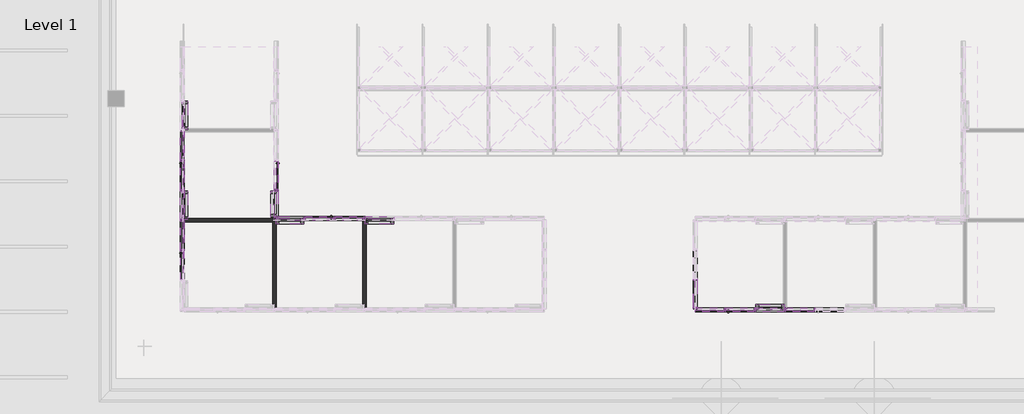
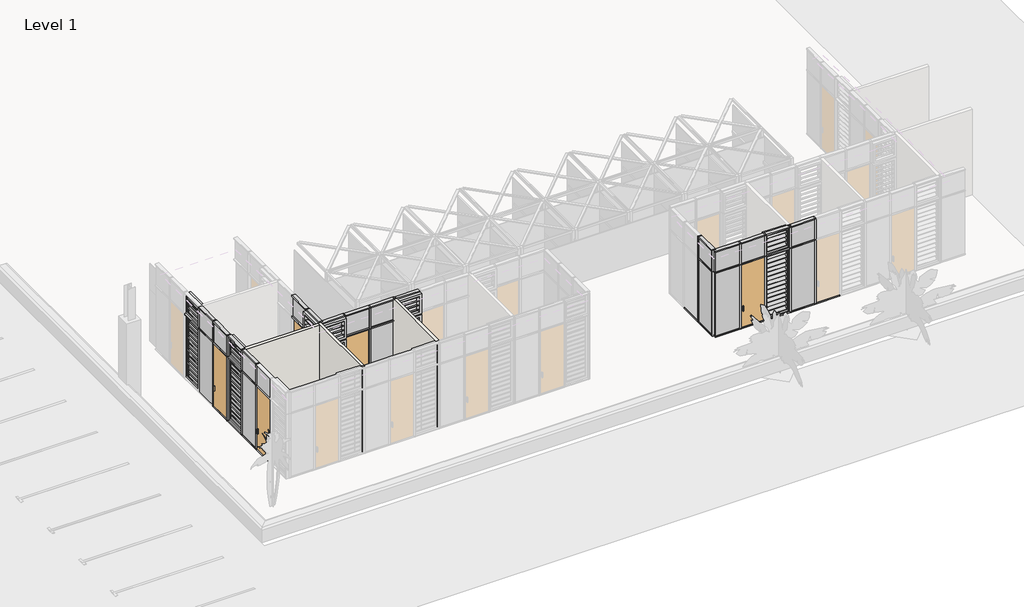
# One storey, part 2 of 32: 76 members, 37 plates, 5 doors, 3 walls.
"""IFC4 building model written with IfcOpenShell, lengths in millimetres."""

from ifc_helpers import new_model, si_unit, frame, origin, place, context, project, spatial, polyline, outline, extrude, faceted_brep, transform, mapped, element, save
from components import curtain_wall_door_single_glass_nz_curtain_wall_door_single_2bf20aac, curtain_wall_door_single_glass_nz_curtain_wall_door_single_ff8afd41, rectangular_mullion_50x150mm_c4504768, rectangular_mullion_50x150mm_6c7cb899, rectangular_mullion_50x150mm_bbc1c4ea, rectangular_mullion_50x150mm_1a36453b, rectangular_mullion_50x150mm_eeb88b28, rectangular_mullion_50x150mm_68c91185, rectangular_mullion_50x150mm_0d540e17, rectangular_mullion_50x150mm_ef3a484d, rectangular_mullion_50x150mm_108cdc6f, rectangular_mullion_50x150mm_593aaa1e, rectangular_mullion_50x150mm_375c3673, rectangular_mullion_50x150mm_9239b3be, rectangular_mullion_50x150mm_a540b215, rectangular_mullion_50x150mm_7be19fc6, rectangular_mullion_50x150mm_2e7aba4c, rectangular_mullion_50x150mm_cbc47d61, rectangular_mullion_50x150mm_107d38b9, curtain_wall_panel_louver_20805_curtain_wall_panel_louver_14332c5b, curtain_wall_panel_louver_20805_curtain_wall_panel_louver_d3fb298f, curtain_wall_panel_louver_20805_curtain_wall_panel_louver_d90cc1d3, curtain_wall_panel_glass_louver_20805_curtain_wall_panel_0f8e40a1, curtain_wall_panel_glass_louver_20805_curtain_wall_panel_1d079b44, curtain_wall_panel_glass_louver_20805_curtain_wall_panel_53968385, system_panel_glazed_c6855d5e, system_panel_glazed_a80c9663, system_panel_glazed_a434d42b, system_panel_glazed_53fe5bbb, system_panel_glazed_714bd533, system_panel_glazed_c406ecc0, system_panel_solid_585523e5, system_panel_solid_746005ab, system_panel_solid_10c0fb46

model = new_model("IFC4")

# Units and contexts
model_context = context("Model", 3, world=origin())
ifc_project = project(units=[si_unit("LENGTHUNIT", "METRE", prefix="MILLI")], contexts=[model_context])

# Site, building, storey
site = spatial("IfcSite", under=ifc_project)
building = spatial("IfcBuilding", under=site)
storey = spatial("IfcBuildingStorey", under=building, Name="Level 1", Elevation=2800.0)

# Doors
placement = place(None, origin())
curtain_wall_door_single_glass_nz_curtain_wall_door_single_shape = curtain_wall_door_single_glass_nz_curtain_wall_door_single_2bf20aac(model_context)
element("IfcDoor", 1, ObjectType="Curtain Wall Door-Single-Glass (NZ) : Curtain Wall Door-Single-Glass (NZ)", at=placement, inside=storey, context=model_context, shape_type="MappedRepresentation", body=[
    mapped(curtain_wall_door_single_glass_nz_curtain_wall_door_single_shape, transform((-83784.8408447, -28355.9199596, 2850.0), x_axis=(0.0, -1.0, 0.0), y_axis=(1.0, 0.0, 0.0), z_axis=(0.0, 0.0, 1.0))),
])
curtain_wall_door_single_glass_nz_curtain_wall_door_single_2_shape = curtain_wall_door_single_glass_nz_curtain_wall_door_single_ff8afd41(model_context)
element("IfcDoor", 2, ObjectType="Curtain Wall Door-Single-Glass (NZ) : Curtain Wall Door-Single-Glass (NZ)", at=placement, inside=storey, context=model_context, shape_type="MappedRepresentation", body=[
    mapped(curtain_wall_door_single_glass_nz_curtain_wall_door_single_2_shape, transform((-66780.3056756, -33305.9199596, 2850.0), x_axis=(1.0, 0.0, 0.0), y_axis=(0.0, 1.0, 0.0), z_axis=(0.0, 0.0, 1.0))),
])
element("IfcDoor", 3, ObjectType="Curtain Wall Door-Single-Glass (NZ) : Curtain Wall Door-Single-Glass (NZ)", at=placement, inside=storey, context=model_context, shape_type="MappedRepresentation", body=[
    mapped(curtain_wall_door_single_glass_nz_curtain_wall_door_single_2_shape, transform((-82209.8408448, -29943.4199596, 2850.0), x_axis=(-1.0, 0.0, 0.0), y_axis=(0.0, -1.0, 0.0), z_axis=(0.0, 0.0, 1.0))),
])
element("IfcDoor", 4, ObjectType="Curtain Wall Door-Single-Glass (NZ) : Curtain Wall Door-Single-Glass (NZ)", at=placement, inside=storey, context=model_context, shape_type="MappedRepresentation", body=[
    mapped(curtain_wall_door_single_glass_nz_curtain_wall_door_single_2_shape, transform((-87234.8408447, -28355.9199596, 2850.0), x_axis=(0.0, -1.0, 0.0), y_axis=(1.0, 0.0, 0.0), z_axis=(0.0, 0.0, 1.0))),
])
element("IfcDoor", 5, ObjectType="Curtain Wall Door-Single-Glass (NZ) : Curtain Wall Door-Single-Glass (NZ)", at=placement, inside=storey, context=model_context, shape_type="MappedRepresentation", body=[
    mapped(curtain_wall_door_single_glass_nz_curtain_wall_door_single_2_shape, transform((-87234.8408447, -31655.9199597, 2850.0), x_axis=(0.0, -1.0, 0.0), y_axis=(1.0, 0.0, 0.0), z_axis=(0.0, 0.0, 1.0))),
])

# Members
rectangular_mullion_50x150mm_shape = rectangular_mullion_50x150mm_c4504768(model_context)
element("IfcMember", 6, ObjectType="Rectangular Mullion : 50x150mm", at=placement, inside=storey, context=model_context, shape_type="MappedRepresentation", body=[
    mapped(rectangular_mullion_50x150mm_shape, transform((-83784.8408447, -28880.9199596, 5800.0), x_axis=(0.0, 0.0, 1.0), y_axis=(-1.0, 0.0, 0.0), z_axis=(0.0, -1.0, 0.0))),
])
rectangular_mullion_50x150mm_2_shape = rectangular_mullion_50x150mm_6c7cb899(model_context)
element("IfcMember", 7, ObjectType="Rectangular Mullion : 50x150mm", at=placement, inside=storey, context=model_context, shape_type="MappedRepresentation", body=[
    mapped(rectangular_mullion_50x150mm_2_shape, transform((-83784.8408447, -28905.9199596, 2800.0), x_axis=(0.0, -1.0, 0.0), y_axis=(-1.0, 0.0, 0.0), z_axis=(0.0, 0.0, -1.0))),
])
element("IfcMember", 8, ObjectType="Rectangular Mullion : 50x150mm", at=placement, inside=storey, context=model_context, shape_type="MappedRepresentation", body=[
    mapped(rectangular_mullion_50x150mm_2_shape, transform((-68427.8056755, -32179.2532929, 2800.0), x_axis=(0.0, 1.0, 0.0), y_axis=(1.0, 0.0, 0.0), z_axis=(0.0, 0.0, -1.0))),
])
rectangular_mullion_50x150mm_3_shape = rectangular_mullion_50x150mm_bbc1c4ea(model_context)
element("IfcMember", 9, ObjectType="Rectangular Mullion : 50x150mm", at=placement, inside=storey, context=model_context, shape_type="MappedRepresentation", body=[
    mapped(rectangular_mullion_50x150mm_3_shape, transform((-83784.8408447, -28905.9199596, 5800.0), x_axis=(0.0, -1.0, 0.0), y_axis=(-1.0, 0.0, 0.0), z_axis=(0.0, 0.0, -1.0))),
])
element("IfcMember", 10, ObjectType="Rectangular Mullion : 50x150mm", at=placement, inside=storey, context=model_context, shape_type="MappedRepresentation", body=[
    mapped(rectangular_mullion_50x150mm_3_shape, transform((-68427.8056755, -32179.2532929, 5800.0), x_axis=(0.0, 1.0, 0.0), y_axis=(1.0, 0.0, 0.0), z_axis=(0.0, 0.0, -1.0))),
])
rectangular_mullion_50x150mm_4_shape = rectangular_mullion_50x150mm_1a36453b(model_context)
element("IfcMember", 11, ObjectType="Rectangular Mullion : 50x150mm", at=placement, inside=storey, context=model_context, shape_type="MappedRepresentation", body=[
    mapped(rectangular_mullion_50x150mm_4_shape, transform((-83784.8408447, -28880.9199596, 6800.0), x_axis=(0.0, 0.0, 1.0), y_axis=(-1.0, 0.0, 0.0), z_axis=(0.0, -1.0, 0.0))),
])
rectangular_mullion_50x150mm_5_shape = rectangular_mullion_50x150mm_eeb88b28(model_context)
element("IfcMember", 12, ObjectType="Rectangular Mullion : 50x150mm", at=placement, inside=storey, context=model_context, shape_type="MappedRepresentation", body=[
    mapped(rectangular_mullion_50x150mm_5_shape, transform((-68427.8056755, -33265.9199596, 6800.0), x_axis=(0.0, -1.0, 0.0), y_axis=(1.0, 0.0, 0.0), z_axis=(0.0, 0.0, 1.0))),
])
rectangular_mullion_50x150mm_6_shape = rectangular_mullion_50x150mm_68c91185(model_context)
element("IfcMember", 13, ObjectType="Rectangular Mullion : 50x150mm", at=placement, inside=storey, context=model_context, shape_type="MappedRepresentation", body=[
    mapped(rectangular_mullion_50x150mm_6_shape, transform((-83784.8408447, -29943.4199596, 2800.0), x_axis=(0.0, -1.0, 0.0), y_axis=(-1.0, 0.0, 0.0), z_axis=(0.0, 0.0, -1.0))),
])
element("IfcMember", 14, ObjectType="Rectangular Mullion : 50x150mm", at=placement, inside=storey, context=model_context, shape_type="MappedRepresentation", body=[
    mapped(rectangular_mullion_50x150mm_5_shape, transform((-83784.8408447, -29943.4199596, 5800.0), x_axis=(0.0, -1.0, 0.0), y_axis=(-1.0, 0.0, 0.0), z_axis=(0.0, 0.0, -1.0))),
])
element("IfcMember", 15, ObjectType="Rectangular Mullion : 50x150mm", at=placement, inside=storey, context=model_context, shape_type="MappedRepresentation", body=[
    mapped(rectangular_mullion_50x150mm_6_shape, transform((-68427.8056755, -33265.9199596, 5800.0), x_axis=(0.0, -1.0, 0.0), y_axis=(1.0, 0.0, 0.0), z_axis=(0.0, 0.0, 1.0))),
])
element("IfcMember", 16, ObjectType="Rectangular Mullion : 50x150mm", at=placement, inside=storey, context=model_context, shape_type="MappedRepresentation", body=[
    mapped(rectangular_mullion_50x150mm_3_shape, transform((-64030.3056756, -33305.9199596, 5800.0), x_axis=(1.0, 0.0, 0.0), y_axis=(0.0, -1.0, 0.0), z_axis=(0.0, 0.0, -1.0))),
])
element("IfcMember", 17, ObjectType="Rectangular Mullion : 50x150mm", at=placement, inside=storey, context=model_context, shape_type="MappedRepresentation", body=[
    mapped(rectangular_mullion_50x150mm_3_shape, transform((-65130.3056756, -33305.9199596, 5800.0), x_axis=(1.0, 0.0, 0.0), y_axis=(0.0, -1.0, 0.0), z_axis=(0.0, 0.0, -1.0))),
])
element("IfcMember", 18, ObjectType="Rectangular Mullion : 50x150mm", at=placement, inside=storey, context=model_context, shape_type="MappedRepresentation", body=[
    mapped(rectangular_mullion_50x150mm_3_shape, transform((-66230.3056756, -33305.9199596, 5800.0), x_axis=(1.0, 0.0, 0.0), y_axis=(0.0, -1.0, 0.0), z_axis=(0.0, 0.0, -1.0))),
])
element("IfcMember", 19, ObjectType="Rectangular Mullion : 50x150mm", at=placement, inside=storey, context=model_context, shape_type="MappedRepresentation", body=[
    mapped(rectangular_mullion_50x150mm_3_shape, transform((-67330.3056756, -33305.9199596, 5800.0), x_axis=(1.0, 0.0, 0.0), y_axis=(0.0, -1.0, 0.0), z_axis=(0.0, 0.0, -1.0))),
])
element("IfcMember", 20, ObjectType="Rectangular Mullion : 50x150mm", at=placement, inside=storey, context=model_context, shape_type="MappedRepresentation", body=[
    mapped(rectangular_mullion_50x150mm_3_shape, transform((-81659.8408448, -29943.4199596, 5800.0), x_axis=(-1.0, 0.0, 0.0), y_axis=(0.0, 1.0, 0.0), z_axis=(0.0, 0.0, -1.0))),
])
element("IfcMember", 21, ObjectType="Rectangular Mullion : 50x150mm", at=placement, inside=storey, context=model_context, shape_type="MappedRepresentation", body=[
    mapped(rectangular_mullion_50x150mm_3_shape, transform((-82759.8408447, -29943.4199596, 5800.0), x_axis=(-1.0, 0.0, 0.0), y_axis=(0.0, 1.0, 0.0), z_axis=(0.0, 0.0, -1.0))),
])
element("IfcMember", 22, ObjectType="Rectangular Mullion : 50x150mm", at=placement, inside=storey, context=model_context, shape_type="MappedRepresentation", body=[
    mapped(rectangular_mullion_50x150mm_3_shape, transform((-80559.8408447, -29943.4199596, 5800.0), x_axis=(-1.0, 0.0, 0.0), y_axis=(0.0, 1.0, 0.0), z_axis=(0.0, 0.0, -1.0))),
])
element("IfcMember", 23, ObjectType="Rectangular Mullion : 50x150mm", at=placement, inside=storey, context=model_context, shape_type="MappedRepresentation", body=[
    mapped(rectangular_mullion_50x150mm_3_shape, transform((-87234.8408447, -27805.9199596, 5800.0), x_axis=(0.0, -1.0, 0.0), y_axis=(-1.0, 0.0, 0.0), z_axis=(0.0, 0.0, -1.0))),
])
element("IfcMember", 24, ObjectType="Rectangular Mullion : 50x150mm", at=placement, inside=storey, context=model_context, shape_type="MappedRepresentation", body=[
    mapped(rectangular_mullion_50x150mm_3_shape, transform((-87234.8408447, -28905.9199596, 5800.0), x_axis=(0.0, -1.0, 0.0), y_axis=(-1.0, 0.0, 0.0), z_axis=(0.0, 0.0, -1.0))),
])
element("IfcMember", 25, ObjectType="Rectangular Mullion : 50x150mm", at=placement, inside=storey, context=model_context, shape_type="MappedRepresentation", body=[
    mapped(rectangular_mullion_50x150mm_2_shape, transform((-64030.3056756, -33305.9199596, 2800.0), x_axis=(1.0, 0.0, 0.0), y_axis=(0.0, -1.0, 0.0), z_axis=(0.0, 0.0, -1.0))),
])
element("IfcMember", 26, ObjectType="Rectangular Mullion : 50x150mm", at=placement, inside=storey, context=model_context, shape_type="MappedRepresentation", body=[
    mapped(rectangular_mullion_50x150mm_2_shape, transform((-65130.3056756, -33305.9199596, 2800.0), x_axis=(1.0, 0.0, 0.0), y_axis=(0.0, -1.0, 0.0), z_axis=(0.0, 0.0, -1.0))),
])
element("IfcMember", 27, ObjectType="Rectangular Mullion : 50x150mm", at=placement, inside=storey, context=model_context, shape_type="MappedRepresentation", body=[
    mapped(rectangular_mullion_50x150mm_2_shape, transform((-66230.3056756, -33305.9199596, 2800.0), x_axis=(1.0, 0.0, 0.0), y_axis=(0.0, -1.0, 0.0), z_axis=(0.0, 0.0, -1.0))),
])
element("IfcMember", 28, ObjectType="Rectangular Mullion : 50x150mm", at=placement, inside=storey, context=model_context, shape_type="MappedRepresentation", body=[
    mapped(rectangular_mullion_50x150mm_2_shape, transform((-67330.3056756, -33305.9199596, 2800.0), x_axis=(1.0, 0.0, 0.0), y_axis=(0.0, -1.0, 0.0), z_axis=(0.0, 0.0, -1.0))),
])
element("IfcMember", 29, ObjectType="Rectangular Mullion : 50x150mm", at=placement, inside=storey, context=model_context, shape_type="MappedRepresentation", body=[
    mapped(rectangular_mullion_50x150mm_2_shape, transform((-81659.8408448, -29943.4199596, 2800.0), x_axis=(-1.0, 0.0, 0.0), y_axis=(0.0, 1.0, 0.0), z_axis=(0.0, 0.0, -1.0))),
])
element("IfcMember", 30, ObjectType="Rectangular Mullion : 50x150mm", at=placement, inside=storey, context=model_context, shape_type="MappedRepresentation", body=[
    mapped(rectangular_mullion_50x150mm_2_shape, transform((-82759.8408447, -29943.4199596, 2800.0), x_axis=(-1.0, 0.0, 0.0), y_axis=(0.0, 1.0, 0.0), z_axis=(0.0, 0.0, -1.0))),
])
element("IfcMember", 31, ObjectType="Rectangular Mullion : 50x150mm", at=placement, inside=storey, context=model_context, shape_type="MappedRepresentation", body=[
    mapped(rectangular_mullion_50x150mm_2_shape, transform((-80559.8408447, -29943.4199596, 2800.0), x_axis=(-1.0, 0.0, 0.0), y_axis=(0.0, 1.0, 0.0), z_axis=(0.0, 0.0, -1.0))),
])
element("IfcMember", 32, ObjectType="Rectangular Mullion : 50x150mm", at=placement, inside=storey, context=model_context, shape_type="MappedRepresentation", body=[
    mapped(rectangular_mullion_50x150mm_2_shape, transform((-87234.8408447, -27805.9199596, 2800.0), x_axis=(0.0, -1.0, 0.0), y_axis=(-1.0, 0.0, 0.0), z_axis=(0.0, 0.0, -1.0))),
])
element("IfcMember", 33, ObjectType="Rectangular Mullion : 50x150mm", at=placement, inside=storey, context=model_context, shape_type="MappedRepresentation", body=[
    mapped(rectangular_mullion_50x150mm_2_shape, transform((-87234.8408447, -28905.9199596, 2800.0), x_axis=(0.0, -1.0, 0.0), y_axis=(-1.0, 0.0, 0.0), z_axis=(0.0, 0.0, -1.0))),
])
rectangular_mullion_50x150mm_7_shape = rectangular_mullion_50x150mm_0d540e17(model_context)
element("IfcMember", 34, ObjectType="Rectangular Mullion : 50x150mm", at=placement, inside=storey, context=model_context, shape_type="MappedRepresentation", body=[
    mapped(rectangular_mullion_50x150mm_7_shape, transform((-65155.3056756, -33305.9199596, 5800.0), x_axis=(0.0, 0.0, 1.0), y_axis=(0.0, -1.0, 0.0), z_axis=(1.0, 0.0, 0.0))),
])
element("IfcMember", 35, ObjectType="Rectangular Mullion : 50x150mm", at=placement, inside=storey, context=model_context, shape_type="MappedRepresentation", body=[
    mapped(rectangular_mullion_50x150mm_7_shape, transform((-66255.3056756, -33305.9199596, 5800.0), x_axis=(0.0, 0.0, 1.0), y_axis=(0.0, -1.0, 0.0), z_axis=(1.0, 0.0, 0.0))),
])
element("IfcMember", 36, ObjectType="Rectangular Mullion : 50x150mm", at=placement, inside=storey, context=model_context, shape_type="MappedRepresentation", body=[
    mapped(rectangular_mullion_50x150mm_7_shape, transform((-64055.3056756, -33305.9199596, 5800.0), x_axis=(0.0, 0.0, 1.0), y_axis=(0.0, -1.0, 0.0), z_axis=(1.0, 0.0, 0.0))),
])
element("IfcMember", 37, ObjectType="Rectangular Mullion : 50x150mm", at=placement, inside=storey, context=model_context, shape_type="MappedRepresentation", body=[
    mapped(rectangular_mullion_50x150mm_7_shape, transform((-81634.8408448, -29943.4199596, 5800.0), x_axis=(0.0, 0.0, 1.0), y_axis=(0.0, 1.0, 0.0), z_axis=(-1.0, 0.0, 0.0))),
])
element("IfcMember", 38, ObjectType="Rectangular Mullion : 50x150mm", at=placement, inside=storey, context=model_context, shape_type="MappedRepresentation", body=[
    mapped(rectangular_mullion_50x150mm_7_shape, transform((-82734.8408447, -29943.4199596, 5800.0), x_axis=(0.0, 0.0, 1.0), y_axis=(0.0, 1.0, 0.0), z_axis=(-1.0, 0.0, 0.0))),
])
element("IfcMember", 39, ObjectType="Rectangular Mullion : 50x150mm", at=placement, inside=storey, context=model_context, shape_type="MappedRepresentation", body=[
    mapped(rectangular_mullion_50x150mm_7_shape, transform((-80534.8408447, -29943.4199596, 5800.0), x_axis=(0.0, 0.0, 1.0), y_axis=(0.0, 1.0, 0.0), z_axis=(-1.0, 0.0, 0.0))),
])
element("IfcMember", 40, ObjectType="Rectangular Mullion : 50x150mm", at=placement, inside=storey, context=model_context, shape_type="MappedRepresentation", body=[
    mapped(rectangular_mullion_50x150mm_7_shape, transform((-87234.8408447, -29980.9199596, 5800.0), x_axis=(0.0, 0.0, 1.0), y_axis=(-1.0, 0.0, 0.0), z_axis=(0.0, -1.0, 0.0))),
])
element("IfcMember", 41, ObjectType="Rectangular Mullion : 50x150mm", at=placement, inside=storey, context=model_context, shape_type="MappedRepresentation", body=[
    mapped(rectangular_mullion_50x150mm_7_shape, transform((-87234.8408447, -27780.9199596, 5800.0), x_axis=(0.0, 0.0, 1.0), y_axis=(-1.0, 0.0, 0.0), z_axis=(0.0, -1.0, 0.0))),
])
element("IfcMember", 42, ObjectType="Rectangular Mullion : 50x150mm", at=placement, inside=storey, context=model_context, shape_type="MappedRepresentation", body=[
    mapped(rectangular_mullion_50x150mm_7_shape, transform((-87234.8408447, -26680.9199596, 5800.0), x_axis=(0.0, 0.0, 1.0), y_axis=(-1.0, 0.0, 0.0), z_axis=(0.0, -1.0, 0.0))),
])
element("IfcMember", 43, ObjectType="Rectangular Mullion : 50x150mm", at=placement, inside=storey, context=model_context, shape_type="MappedRepresentation", body=[
    mapped(rectangular_mullion_50x150mm_7_shape, transform((-87234.8408447, -28880.9199596, 5800.0), x_axis=(0.0, 0.0, 1.0), y_axis=(-1.0, 0.0, 0.0), z_axis=(0.0, -1.0, 0.0))),
])
rectangular_mullion_50x150mm_8_shape = rectangular_mullion_50x150mm_ef3a484d(model_context)
element("IfcMember", 44, ObjectType="Rectangular Mullion : 50x150mm", at=placement, inside=storey, context=model_context, shape_type="MappedRepresentation", body=[
    mapped(rectangular_mullion_50x150mm_8_shape, transform((-67355.3056756, -33305.9199596, 5800.0), x_axis=(0.0, 0.0, 1.0), y_axis=(0.0, -1.0, 0.0), z_axis=(1.0, 0.0, 0.0))),
])
rectangular_mullion_50x150mm_9_shape = rectangular_mullion_50x150mm_108cdc6f(model_context)
element("IfcMember", 45, ObjectType="Rectangular Mullion : 50x150mm", at=placement, inside=storey, context=model_context, shape_type="MappedRepresentation", body=[
    mapped(rectangular_mullion_50x150mm_9_shape, transform((-64005.3056756, -33305.9199596, 2800.0), x_axis=(0.0, 0.0, -1.0), y_axis=(0.0, -1.0, 0.0), z_axis=(-1.0, 0.0, 0.0))),
])
element("IfcMember", 46, ObjectType="Rectangular Mullion : 50x150mm", at=placement, inside=storey, context=model_context, shape_type="MappedRepresentation", body=[
    mapped(rectangular_mullion_50x150mm_9_shape, transform((-66205.3056756, -33305.9199596, 2800.0), x_axis=(0.0, 0.0, -1.0), y_axis=(0.0, -1.0, 0.0), z_axis=(-1.0, 0.0, 0.0))),
])
element("IfcMember", 47, ObjectType="Rectangular Mullion : 50x150mm", at=placement, inside=storey, context=model_context, shape_type="MappedRepresentation", body=[
    mapped(rectangular_mullion_50x150mm_9_shape, transform((-67305.3056756, -33305.9199596, 2800.0), x_axis=(0.0, 0.0, -1.0), y_axis=(0.0, -1.0, 0.0), z_axis=(-1.0, 0.0, 0.0))),
])
element("IfcMember", 48, ObjectType="Rectangular Mullion : 50x150mm", at=placement, inside=storey, context=model_context, shape_type="MappedRepresentation", body=[
    mapped(rectangular_mullion_50x150mm_9_shape, transform((-65105.3056756, -33305.9199596, 2800.0), x_axis=(0.0, 0.0, -1.0), y_axis=(0.0, -1.0, 0.0), z_axis=(-1.0, 0.0, 0.0))),
])
element("IfcMember", 49, ObjectType="Rectangular Mullion : 50x150mm", at=placement, inside=storey, context=model_context, shape_type="MappedRepresentation", body=[
    mapped(rectangular_mullion_50x150mm_9_shape, transform((-80584.8408447, -29943.4199596, 2800.0), x_axis=(0.0, 0.0, -1.0), y_axis=(0.0, 1.0, 0.0), z_axis=(1.0, 0.0, 0.0))),
])
element("IfcMember", 50, ObjectType="Rectangular Mullion : 50x150mm", at=placement, inside=storey, context=model_context, shape_type="MappedRepresentation", body=[
    mapped(rectangular_mullion_50x150mm_9_shape, transform((-81684.8408448, -29943.4199596, 2800.0), x_axis=(0.0, 0.0, -1.0), y_axis=(0.0, 1.0, 0.0), z_axis=(1.0, 0.0, 0.0))),
])
element("IfcMember", 51, ObjectType="Rectangular Mullion : 50x150mm", at=placement, inside=storey, context=model_context, shape_type="MappedRepresentation", body=[
    mapped(rectangular_mullion_50x150mm_9_shape, transform((-87234.8408447, -28930.9199596, 2800.0), x_axis=(0.0, 0.0, -1.0), y_axis=(-1.0, 0.0, 0.0), z_axis=(0.0, 1.0, 0.0))),
])
element("IfcMember", 52, ObjectType="Rectangular Mullion : 50x150mm", at=placement, inside=storey, context=model_context, shape_type="MappedRepresentation", body=[
    mapped(rectangular_mullion_50x150mm_9_shape, transform((-87234.8408447, -27830.9199596, 2800.0), x_axis=(0.0, 0.0, -1.0), y_axis=(-1.0, 0.0, 0.0), z_axis=(0.0, 1.0, 0.0))),
])
rectangular_mullion_50x150mm_10_shape = rectangular_mullion_50x150mm_593aaa1e(model_context)
element("IfcMember", 53, ObjectType="Rectangular Mullion : 50x150mm", at=placement, inside=storey, context=model_context, shape_type="MappedRepresentation", body=[
    mapped(rectangular_mullion_50x150mm_10_shape, transform((-68430.3056755, -33305.9199596, 2800.0), x_axis=(0.0, 0.0, -1.0), y_axis=(0.0, -1.0, 0.0), z_axis=(-1.0, 0.0, 0.0))),
])
element("IfcMember", 54, ObjectType="Rectangular Mullion : 50x150mm", at=placement, inside=storey, context=model_context, shape_type="MappedRepresentation", body=[
    mapped(rectangular_mullion_50x150mm_4_shape, transform((-64055.3056756, -33305.9199596, 6800.0), x_axis=(0.0, 0.0, 1.0), y_axis=(0.0, -1.0, 0.0), z_axis=(1.0, 0.0, 0.0))),
])
element("IfcMember", 55, ObjectType="Rectangular Mullion : 50x150mm", at=placement, inside=storey, context=model_context, shape_type="MappedRepresentation", body=[
    mapped(rectangular_mullion_50x150mm_4_shape, transform((-66255.3056756, -33305.9199596, 6800.0), x_axis=(0.0, 0.0, 1.0), y_axis=(0.0, -1.0, 0.0), z_axis=(1.0, 0.0, 0.0))),
])
element("IfcMember", 56, ObjectType="Rectangular Mullion : 50x150mm", at=placement, inside=storey, context=model_context, shape_type="MappedRepresentation", body=[
    mapped(rectangular_mullion_50x150mm_4_shape, transform((-65155.3056756, -33305.9199596, 6800.0), x_axis=(0.0, 0.0, 1.0), y_axis=(0.0, -1.0, 0.0), z_axis=(1.0, 0.0, 0.0))),
])
element("IfcMember", 57, ObjectType="Rectangular Mullion : 50x150mm", at=placement, inside=storey, context=model_context, shape_type="MappedRepresentation", body=[
    mapped(rectangular_mullion_50x150mm_4_shape, transform((-80534.8408447, -29943.4199596, 6800.0), x_axis=(0.0, 0.0, 1.0), y_axis=(0.0, 1.0, 0.0), z_axis=(-1.0, 0.0, 0.0))),
])
element("IfcMember", 58, ObjectType="Rectangular Mullion : 50x150mm", at=placement, inside=storey, context=model_context, shape_type="MappedRepresentation", body=[
    mapped(rectangular_mullion_50x150mm_4_shape, transform((-82734.8408447, -29943.4199596, 6800.0), x_axis=(0.0, 0.0, 1.0), y_axis=(0.0, 1.0, 0.0), z_axis=(-1.0, 0.0, 0.0))),
])
element("IfcMember", 59, ObjectType="Rectangular Mullion : 50x150mm", at=placement, inside=storey, context=model_context, shape_type="MappedRepresentation", body=[
    mapped(rectangular_mullion_50x150mm_4_shape, transform((-81634.8408448, -29943.4199596, 6800.0), x_axis=(0.0, 0.0, 1.0), y_axis=(0.0, 1.0, 0.0), z_axis=(-1.0, 0.0, 0.0))),
])
element("IfcMember", 60, ObjectType="Rectangular Mullion : 50x150mm", at=placement, inside=storey, context=model_context, shape_type="MappedRepresentation", body=[
    mapped(rectangular_mullion_50x150mm_4_shape, transform((-87234.8408447, -28880.9199596, 6800.0), x_axis=(0.0, 0.0, 1.0), y_axis=(-1.0, 0.0, 0.0), z_axis=(0.0, -1.0, 0.0))),
])
element("IfcMember", 61, ObjectType="Rectangular Mullion : 50x150mm", at=placement, inside=storey, context=model_context, shape_type="MappedRepresentation", body=[
    mapped(rectangular_mullion_50x150mm_4_shape, transform((-87234.8408447, -27780.9199596, 6800.0), x_axis=(0.0, 0.0, 1.0), y_axis=(-1.0, 0.0, 0.0), z_axis=(0.0, -1.0, 0.0))),
])
element("IfcMember", 62, ObjectType="Rectangular Mullion : 50x150mm", at=placement, inside=storey, context=model_context, shape_type="MappedRepresentation", body=[
    mapped(rectangular_mullion_50x150mm_10_shape, transform((-67355.3056756, -33305.9199596, 6800.0), x_axis=(0.0, 0.0, 1.0), y_axis=(0.0, -1.0, 0.0), z_axis=(1.0, 0.0, 0.0))),
])
rectangular_mullion_50x150mm_11_shape = rectangular_mullion_50x150mm_375c3673(model_context)
element("IfcMember", 63, ObjectType="Rectangular Mullion : 50x150mm", at=placement, inside=storey, context=model_context, shape_type="MappedRepresentation", body=[
    mapped(rectangular_mullion_50x150mm_11_shape, transform((-83797.3408447, -29943.4199596, 5800.0), x_axis=(0.0, 0.0, 1.0), y_axis=(0.0, 1.0, 0.0), z_axis=(-1.0, 0.0, 0.0))),
])
rectangular_mullion_50x150mm_12_shape = rectangular_mullion_50x150mm_9239b3be(model_context)
element("IfcMember", 64, ObjectType="Rectangular Mullion : 50x150mm", at=placement, inside=storey, context=model_context, shape_type="MappedRepresentation", body=[
    mapped(rectangular_mullion_50x150mm_12_shape, transform((-82784.8408447, -29943.4199596, 2800.0), x_axis=(0.0, 0.0, -1.0), y_axis=(0.0, 1.0, 0.0), z_axis=(1.0, 0.0, 0.0))),
])
element("IfcMember", 65, ObjectType="Rectangular Mullion : 50x150mm", at=placement, inside=storey, context=model_context, shape_type="MappedRepresentation", body=[
    mapped(rectangular_mullion_50x150mm_12_shape, transform((-83797.3408447, -29943.4199596, 6800.0), x_axis=(0.0, 0.0, 1.0), y_axis=(0.0, 1.0, 0.0), z_axis=(-1.0, 0.0, 0.0))),
])
element("IfcMember", 66, ObjectType="Rectangular Mullion : 50x150mm", at=placement, inside=storey, context=model_context, shape_type="MappedRepresentation", body=[
    mapped(rectangular_mullion_50x150mm_9_shape, transform((-87234.8408447, -30030.9199596, 2800.0), x_axis=(0.0, 0.0, -1.0), y_axis=(-1.0, 0.0, 0.0), z_axis=(0.0, 1.0, 0.0))),
])
element("IfcMember", 67, ObjectType="Rectangular Mullion : 50x150mm", at=placement, inside=storey, context=model_context, shape_type="MappedRepresentation", body=[
    mapped(rectangular_mullion_50x150mm_9_shape, transform((-87234.8408447, -31130.9199597, 2800.0), x_axis=(0.0, 0.0, -1.0), y_axis=(-1.0, 0.0, 0.0), z_axis=(0.0, 1.0, 0.0))),
])
element("IfcMember", 68, ObjectType="Rectangular Mullion : 50x150mm", at=placement, inside=storey, context=model_context, shape_type="MappedRepresentation", body=[
    mapped(rectangular_mullion_50x150mm_4_shape, transform((-87234.8408447, -29980.9199596, 6800.0), x_axis=(0.0, 0.0, 1.0), y_axis=(-1.0, 0.0, 0.0), z_axis=(0.0, -1.0, 0.0))),
])
element("IfcMember", 69, ObjectType="Rectangular Mullion : 50x150mm", at=placement, inside=storey, context=model_context, shape_type="MappedRepresentation", body=[
    mapped(rectangular_mullion_50x150mm_4_shape, transform((-87234.8408447, -31080.9199597, 6800.0), x_axis=(0.0, 0.0, 1.0), y_axis=(-1.0, 0.0, 0.0), z_axis=(0.0, -1.0, 0.0))),
])
element("IfcMember", 70, ObjectType="Rectangular Mullion : 50x150mm", at=placement, inside=storey, context=model_context, shape_type="MappedRepresentation", body=[
    mapped(rectangular_mullion_50x150mm_3_shape, transform((-87234.8408447, -30005.9199596, 5800.0), x_axis=(0.0, -1.0, 0.0), y_axis=(-1.0, 0.0, 0.0), z_axis=(0.0, 0.0, -1.0))),
])
element("IfcMember", 71, ObjectType="Rectangular Mullion : 50x150mm", at=placement, inside=storey, context=model_context, shape_type="MappedRepresentation", body=[
    mapped(rectangular_mullion_50x150mm_3_shape, transform((-87234.8408447, -31105.9199597, 5800.0), x_axis=(0.0, -1.0, 0.0), y_axis=(-1.0, 0.0, 0.0), z_axis=(0.0, 0.0, -1.0))),
])
element("IfcMember", 72, ObjectType="Rectangular Mullion : 50x150mm", at=placement, inside=storey, context=model_context, shape_type="MappedRepresentation", body=[
    mapped(rectangular_mullion_50x150mm_2_shape, transform((-87234.8408447, -30005.9199596, 2800.0), x_axis=(0.0, -1.0, 0.0), y_axis=(-1.0, 0.0, 0.0), z_axis=(0.0, 0.0, -1.0))),
])
element("IfcMember", 73, ObjectType="Rectangular Mullion : 50x150mm", at=placement, inside=storey, context=model_context, shape_type="MappedRepresentation", body=[
    mapped(rectangular_mullion_50x150mm_2_shape, transform((-87234.8408447, -31105.9199597, 2800.0), x_axis=(0.0, -1.0, 0.0), y_axis=(-1.0, 0.0, 0.0), z_axis=(0.0, 0.0, -1.0))),
])
element("IfcMember", 74, ObjectType="Rectangular Mullion : 50x150mm", at=placement, inside=storey, context=model_context, shape_type="MappedRepresentation", body=[
    mapped(rectangular_mullion_50x150mm_7_shape, transform((-87234.8408447, -31080.9199597, 5800.0), x_axis=(0.0, 0.0, 1.0), y_axis=(-1.0, 0.0, 0.0), z_axis=(0.0, -1.0, 0.0))),
])
rectangular_mullion_50x150mm_13_shape = rectangular_mullion_50x150mm_a540b215(model_context)
element("IfcMember", 75, ObjectType="Rectangular Mullion : 50x150mm", at=placement, inside=storey, context=model_context, shape_type="MappedRepresentation", body=[
    mapped(rectangular_mullion_50x150mm_13_shape, transform((-68427.8056755, -32154.2532929, 2800.0), x_axis=(0.0, 0.0, -1.0), y_axis=(1.0, 0.0, 0.0), z_axis=(0.0, -1.0, 0.0))),
])
rectangular_mullion_50x150mm_14_shape = rectangular_mullion_50x150mm_7be19fc6(model_context)
element("IfcMember", 76, ObjectType="Rectangular Mullion : 50x150mm", at=placement, inside=storey, context=model_context, shape_type="MappedRepresentation", body=[
    mapped(rectangular_mullion_50x150mm_14_shape, transform((-68427.8056755, -32204.2532929, 5800.0), x_axis=(0.0, 0.0, 1.0), y_axis=(1.0, 0.0, 0.0), z_axis=(0.0, 1.0, 0.0))),
])
rectangular_mullion_50x150mm_15_shape = rectangular_mullion_50x150mm_2e7aba4c(model_context)
element("IfcMember", 77, ObjectType="Rectangular Mullion : 50x150mm", at=placement, inside=storey, context=model_context, shape_type="MappedRepresentation", body=[
    mapped(rectangular_mullion_50x150mm_15_shape, transform((-68427.8056755, -33215.9199596, 2800.0), x_axis=(0.0, 0.0, -1.0), y_axis=(1.0, 0.0, 0.0), z_axis=(0.0, -1.0, 0.0))),
])
element("IfcMember", 78, ObjectType="Rectangular Mullion : 50x150mm", at=placement, inside=storey, context=model_context, shape_type="MappedRepresentation", body=[
    mapped(rectangular_mullion_50x150mm_15_shape, transform((-68427.8056755, -32204.2532929, 6800.0), x_axis=(0.0, 0.0, 1.0), y_axis=(1.0, 0.0, 0.0), z_axis=(0.0, 1.0, 0.0))),
])
rectangular_mullion_50x150mm_16_shape = rectangular_mullion_50x150mm_cbc47d61(model_context)
element("IfcMember", 79, ObjectType="Rectangular Mullion : 50x150mm", at=placement, inside=storey, context=model_context, shape_type="MappedRepresentation", body=[
    mapped(rectangular_mullion_50x150mm_16_shape, transform((-83784.8408447, -29893.4199596, 5800.0), x_axis=(0.0, 0.0, 1.0), y_axis=(-1.0, 0.0, 0.0), z_axis=(0.0, -1.0, 0.0))),
])
rectangular_mullion_50x150mm_17_shape = rectangular_mullion_50x150mm_107d38b9(model_context)
element("IfcMember", 80, ObjectType="Rectangular Mullion : 50x150mm", at=placement, inside=storey, context=model_context, shape_type="MappedRepresentation", body=[
    mapped(rectangular_mullion_50x150mm_17_shape, transform((-83784.8408447, -28930.9199596, 2800.0), x_axis=(0.0, 0.0, -1.0), y_axis=(-1.0, 0.0, 0.0), z_axis=(0.0, 1.0, 0.0))),
])
element("IfcMember", 81, ObjectType="Rectangular Mullion : 50x150mm", at=placement, inside=storey, context=model_context, shape_type="MappedRepresentation", body=[
    mapped(rectangular_mullion_50x150mm_17_shape, transform((-83784.8408447, -29893.4199596, 6800.0), x_axis=(0.0, 0.0, 1.0), y_axis=(-1.0, 0.0, 0.0), z_axis=(0.0, -1.0, 0.0))),
])

# Plates
curtain_wall_panel_louver_20805_curtain_wall_panel_louver_shape = curtain_wall_panel_louver_20805_curtain_wall_panel_louver_14332c5b(model_context)
element("IfcPlate", 82, ObjectType="Curtain_wall_panel_-_Louver_20805 : Curtain_wall_panel_-_Louver_20805", at=placement, inside=storey, context=model_context, shape_type="MappedRepresentation", body=[
    mapped(curtain_wall_panel_louver_20805_curtain_wall_panel_louver_shape, transform((-65680.3056756, -33305.9199596, 5825.0), x_axis=(1.0, 0.0, 0.0), y_axis=(0.0, 1.0, 0.0), z_axis=(0.0, 0.0, 1.0))),
])
element("IfcPlate", 83, ObjectType="Curtain_wall_panel_-_Louver_20805 : Curtain_wall_panel_-_Louver_20805", at=placement, inside=storey, context=model_context, shape_type="MappedRepresentation", body=[
    mapped(curtain_wall_panel_louver_20805_curtain_wall_panel_louver_shape, transform((-80009.8408447, -29943.4199596, 5825.0), x_axis=(-1.0, 0.0, 0.0), y_axis=(0.0, -1.0, 0.0), z_axis=(0.0, 0.0, 1.0))),
])
element("IfcPlate", 84, ObjectType="Curtain_wall_panel_-_Louver_20805 : Curtain_wall_panel_-_Louver_20805", at=placement, inside=storey, context=model_context, shape_type="MappedRepresentation", body=[
    mapped(curtain_wall_panel_louver_20805_curtain_wall_panel_louver_shape, transform((-87234.8408447, -26155.9199596, 5825.0), x_axis=(0.0, -1.0, 0.0), y_axis=(1.0, 0.0, 0.0), z_axis=(0.0, 0.0, 1.0))),
])
element("IfcPlate", 85, ObjectType="Curtain_wall_panel_-_Louver_20805 : Curtain_wall_panel_-_Louver_20805", at=placement, inside=storey, context=model_context, shape_type="MappedRepresentation", body=[
    mapped(curtain_wall_panel_louver_20805_curtain_wall_panel_louver_shape, transform((-87234.8408447, -29455.9199596, 5825.0), x_axis=(0.0, -1.0, 0.0), y_axis=(1.0, 0.0, 0.0), z_axis=(0.0, 0.0, 1.0))),
])
curtain_wall_panel_louver_20805_curtain_wall_panel_louver_2_shape = curtain_wall_panel_louver_20805_curtain_wall_panel_louver_d3fb298f(model_context)
element("IfcPlate", 86, ObjectType="Curtain_wall_panel_-_Louver_20805 : Curtain_wall_panel_-_Louver_20805", at=placement, inside=storey, context=model_context, shape_type="MappedRepresentation", body=[
    mapped(curtain_wall_panel_louver_20805_curtain_wall_panel_louver_2_shape, transform((-83291.0908447, -29943.4199596, 5825.0), x_axis=(-1.0, 0.0, 0.0), y_axis=(0.0, -1.0, 0.0), z_axis=(0.0, 0.0, 1.0))),
])
curtain_wall_panel_louver_20805_curtain_wall_panel_louver_3_shape = curtain_wall_panel_louver_20805_curtain_wall_panel_louver_d90cc1d3(model_context)
element("IfcPlate", 87, ObjectType="Curtain_wall_panel_-_Louver_20805 : Curtain_wall_panel_-_Louver_20805", at=placement, inside=storey, context=model_context, shape_type="MappedRepresentation", body=[
    mapped(curtain_wall_panel_louver_20805_curtain_wall_panel_louver_3_shape, transform((-83784.8408447, -29412.1699596, 5825.0), x_axis=(0.0, -1.0, 0.0), y_axis=(1.0, 0.0, 0.0), z_axis=(0.0, 0.0, 1.0))),
])
curtain_wall_panel_glass_louver_20805_curtain_wall_panel_shape = curtain_wall_panel_glass_louver_20805_curtain_wall_panel_0f8e40a1(model_context)
element("IfcPlate", 88, ObjectType="Curtain_wall_panel_glass_Louver_20805 : Curtain_wall_panel_glass_Louver_20805", at=placement, inside=storey, context=model_context, shape_type="MappedRepresentation", body=[
    mapped(curtain_wall_panel_glass_louver_20805_curtain_wall_panel_shape, transform((-65680.3056756, -33305.9199596, 2850.0), x_axis=(1.0, 0.0, 0.0), y_axis=(0.0, 1.0, 0.0), z_axis=(0.0, 0.0, 1.0))),
])
element("IfcPlate", 89, ObjectType="Curtain_wall_panel_glass_Louver_20805 : Curtain_wall_panel_glass_Louver_20805", at=placement, inside=storey, context=model_context, shape_type="MappedRepresentation", body=[
    mapped(curtain_wall_panel_glass_louver_20805_curtain_wall_panel_shape, transform((-80009.8408447, -29943.4199596, 2850.0), x_axis=(-1.0, 0.0, 0.0), y_axis=(0.0, -1.0, 0.0), z_axis=(0.0, 0.0, 1.0))),
])
element("IfcPlate", 90, ObjectType="Curtain_wall_panel_glass_Louver_20805 : Curtain_wall_panel_glass_Louver_20805", at=placement, inside=storey, context=model_context, shape_type="MappedRepresentation", body=[
    mapped(curtain_wall_panel_glass_louver_20805_curtain_wall_panel_shape, transform((-87234.8408447, -26155.9199596, 2850.0), x_axis=(0.0, -1.0, 0.0), y_axis=(1.0, 0.0, 0.0), z_axis=(0.0, 0.0, 1.0))),
])
element("IfcPlate", 91, ObjectType="Curtain_wall_panel_glass_Louver_20805 : Curtain_wall_panel_glass_Louver_20805", at=placement, inside=storey, context=model_context, shape_type="MappedRepresentation", body=[
    mapped(curtain_wall_panel_glass_louver_20805_curtain_wall_panel_shape, transform((-87234.8408447, -29455.9199596, 2850.0), x_axis=(0.0, -1.0, 0.0), y_axis=(1.0, 0.0, 0.0), z_axis=(0.0, 0.0, 1.0))),
])
curtain_wall_panel_glass_louver_20805_curtain_wall_panel_2_shape = curtain_wall_panel_glass_louver_20805_curtain_wall_panel_1d079b44(model_context)
element("IfcPlate", 92, ObjectType="Curtain_wall_panel_glass_Louver_20805 : Curtain_wall_panel_glass_Louver_20805", at=placement, inside=storey, context=model_context, shape_type="MappedRepresentation", body=[
    mapped(curtain_wall_panel_glass_louver_20805_curtain_wall_panel_2_shape, transform((-83291.0908447, -29943.4199596, 2850.0), x_axis=(-1.0, 0.0, 0.0), y_axis=(0.0, -1.0, 0.0), z_axis=(0.0, 0.0, 1.0))),
])
curtain_wall_panel_glass_louver_20805_curtain_wall_panel_3_shape = curtain_wall_panel_glass_louver_20805_curtain_wall_panel_53968385(model_context)
element("IfcPlate", 93, ObjectType="Curtain_wall_panel_glass_Louver_20805 : Curtain_wall_panel_glass_Louver_20805", at=placement, inside=storey, context=model_context, shape_type="MappedRepresentation", body=[
    mapped(curtain_wall_panel_glass_louver_20805_curtain_wall_panel_3_shape, transform((-83784.8408447, -29412.1699596, 2850.0), x_axis=(0.0, -1.0, 0.0), y_axis=(1.0, 0.0, 0.0), z_axis=(0.0, 0.0, 1.0))),
])
system_panel_glazed_shape = system_panel_glazed_c6855d5e(model_context)
element("IfcPlate", 94, ObjectType="System Panel : Glazed", at=placement, inside=storey, context=model_context, shape_type="MappedRepresentation", body=[
    mapped(system_panel_glazed_shape, transform((-87159.8408447, -31055.9199594, 2800.0), x_axis=(0.0, 1.0, 0.0), y_axis=(-1.0, 0.0, 0.0), z_axis=(0.0, 0.0, 1.0))),
])
element("IfcPlate", 95, ObjectType="System Panel : Glazed", at=placement, inside=storey, context=model_context, shape_type="MappedRepresentation", body=[
    mapped(system_panel_glazed_shape, transform((-87159.8408447, -29555.9199595, 2800.0), x_axis=(0.0, 1.0, 0.0), y_axis=(-1.0, 0.0, 0.0), z_axis=(0.0, 0.0, 1.0))),
])
element("IfcPlate", 96, ObjectType="System Panel : Glazed", at=placement, inside=storey, context=model_context, shape_type="MappedRepresentation", body=[
    mapped(system_panel_glazed_shape, transform((-87159.8408447, -28055.9199595, 2800.0), x_axis=(0.0, 1.0, 0.0), y_axis=(-1.0, 0.0, 0.0), z_axis=(0.0, 0.0, 1.0))),
])
element("IfcPlate", 97, ObjectType="System Panel : Glazed", at=placement, inside=storey, context=model_context, shape_type="MappedRepresentation", body=[
    mapped(system_panel_glazed_shape, transform((-87159.8408447, -26555.9199596, 2800.0), x_axis=(0.0, 1.0, 0.0), y_axis=(-1.0, 0.0, 0.0), z_axis=(0.0, 0.0, 1.0))),
])
system_panel_glazed_2_shape = system_panel_glazed_a80c9663(model_context)
element("IfcPlate", 98, ObjectType="System Panel : Glazed", at=placement, inside=storey, context=model_context, shape_type="MappedRepresentation", body=[
    mapped(system_panel_glazed_2_shape, transform((-87159.8408447, -31055.9199594, 5200.0), x_axis=(0.0, 1.0, 0.0), y_axis=(-1.0, 0.0, 0.0), z_axis=(0.0, 0.0, 1.0))),
])
element("IfcPlate", 99, ObjectType="System Panel : Glazed", at=placement, inside=storey, context=model_context, shape_type="MappedRepresentation", body=[
    mapped(system_panel_glazed_2_shape, transform((-87159.8408447, -29555.9199595, 5200.0), x_axis=(0.0, 1.0, 0.0), y_axis=(-1.0, 0.0, 0.0), z_axis=(0.0, 0.0, 1.0))),
])
element("IfcPlate", 100, ObjectType="System Panel : Glazed", at=placement, inside=storey, context=model_context, shape_type="MappedRepresentation", body=[
    mapped(system_panel_glazed_2_shape, transform((-87159.8408447, -28055.9199595, 5200.0), x_axis=(0.0, 1.0, 0.0), y_axis=(-1.0, 0.0, 0.0), z_axis=(0.0, 0.0, 1.0))),
])
element("IfcPlate", 101, ObjectType="System Panel : Glazed", at=placement, inside=storey, context=model_context, shape_type="MappedRepresentation", body=[
    mapped(system_panel_glazed_2_shape, transform((-87159.8408447, -26555.9199596, 5200.0), x_axis=(0.0, 1.0, 0.0), y_axis=(-1.0, 0.0, 0.0), z_axis=(0.0, 0.0, 1.0))),
])
system_panel_glazed_3_shape = system_panel_glazed_a434d42b(model_context)
element("IfcPlate", 102, ObjectType="System Panel : Glazed", at=placement, inside=storey, context=model_context, shape_type="MappedRepresentation", body=[
    mapped(system_panel_glazed_3_shape, transform((-67892.8056755, -33305.9199596, 2850.0), x_axis=(1.0, 0.0, 0.0), y_axis=(0.0, 1.0, 0.0), z_axis=(0.0, 0.0, 1.0))),
])
system_panel_glazed_4_shape = system_panel_glazed_53fe5bbb(model_context)
element("IfcPlate", 103, ObjectType="System Panel : Glazed", at=placement, inside=storey, context=model_context, shape_type="MappedRepresentation", body=[
    mapped(system_panel_glazed_4_shape, transform((-64580.3056756, -33305.9199596, 2850.0), x_axis=(1.0, 0.0, 0.0), y_axis=(0.0, 1.0, 0.0), z_axis=(0.0, 0.0, 1.0))),
])
element("IfcPlate", 104, ObjectType="System Panel : Glazed", at=placement, inside=storey, context=model_context, shape_type="MappedRepresentation", body=[
    mapped(system_panel_glazed_4_shape, transform((-81109.8408448, -29943.4199596, 2850.0), x_axis=(-1.0, 0.0, 0.0), y_axis=(0.0, -1.0, 0.0), z_axis=(0.0, 0.0, 1.0))),
])
element("IfcPlate", 105, ObjectType="System Panel : Glazed", at=placement, inside=storey, context=model_context, shape_type="MappedRepresentation", body=[
    mapped(system_panel_glazed_4_shape, transform((-87234.8408447, -27255.9199596, 2850.0), x_axis=(0.0, -1.0, 0.0), y_axis=(1.0, 0.0, 0.0), z_axis=(0.0, 0.0, 1.0))),
])
element("IfcPlate", 106, ObjectType="System Panel : Glazed", at=placement, inside=storey, context=model_context, shape_type="MappedRepresentation", body=[
    mapped(system_panel_glazed_4_shape, transform((-87234.8408447, -30555.9199597, 2850.0), x_axis=(0.0, -1.0, 0.0), y_axis=(1.0, 0.0, 0.0), z_axis=(0.0, 0.0, 1.0))),
])
system_panel_glazed_5_shape = system_panel_glazed_714bd533(model_context)
element("IfcPlate", 107, ObjectType="System Panel : Glazed", at=placement, inside=storey, context=model_context, shape_type="MappedRepresentation", body=[
    mapped(system_panel_glazed_5_shape, transform((-68427.8056755, -32710.0866262, 2850.0), x_axis=(0.0, 1.0, 0.0), y_axis=(-1.0, 0.0, 0.0), z_axis=(0.0, 0.0, 1.0))),
])
system_panel_glazed_6_shape = system_panel_glazed_c406ecc0(model_context)
element("IfcPlate", 108, ObjectType="System Panel : Glazed", at=placement, inside=storey, context=model_context, shape_type="MappedRepresentation", body=[
    mapped(system_panel_glazed_6_shape, transform((-68427.8056755, -32710.0866262, 5825.0), x_axis=(0.0, 1.0, 0.0), y_axis=(-1.0, 0.0, 0.0), z_axis=(0.0, 0.0, 1.0))),
])
system_panel_solid_shape = system_panel_solid_585523e5(model_context)
element("IfcPlate", 109, ObjectType="System Panel : Solid", at=placement, inside=storey, context=model_context, shape_type="MappedRepresentation", body=[
    mapped(system_panel_solid_shape, transform((-83784.8408447, -28355.9199596, 5825.0), x_axis=(0.0, -1.0, 0.0), y_axis=(1.0, 0.0, 0.0), z_axis=(0.0, 0.0, 1.0))),
])
system_panel_solid_2_shape = system_panel_solid_746005ab(model_context)
element("IfcPlate", 110, ObjectType="System Panel : Solid", at=placement, inside=storey, context=model_context, shape_type="MappedRepresentation", body=[
    mapped(system_panel_solid_2_shape, transform((-67892.8056755, -33305.9199596, 5825.0), x_axis=(1.0, 0.0, 0.0), y_axis=(0.0, 1.0, 0.0), z_axis=(0.0, 0.0, 1.0))),
])
system_panel_solid_3_shape = system_panel_solid_10c0fb46(model_context)
element("IfcPlate", 111, ObjectType="System Panel : Solid", at=placement, inside=storey, context=model_context, shape_type="MappedRepresentation", body=[
    mapped(system_panel_solid_3_shape, transform((-66780.3056756, -33305.9199596, 5825.0), x_axis=(1.0, 0.0, 0.0), y_axis=(0.0, 1.0, 0.0), z_axis=(0.0, 0.0, 1.0))),
])
element("IfcPlate", 112, ObjectType="System Panel : Solid", at=placement, inside=storey, context=model_context, shape_type="MappedRepresentation", body=[
    mapped(system_panel_solid_3_shape, transform((-64580.3056756, -33305.9199596, 5825.0), x_axis=(1.0, 0.0, 0.0), y_axis=(0.0, 1.0, 0.0), z_axis=(0.0, 0.0, 1.0))),
])
element("IfcPlate", 113, ObjectType="System Panel : Solid", at=placement, inside=storey, context=model_context, shape_type="MappedRepresentation", body=[
    mapped(system_panel_solid_3_shape, transform((-81109.8408448, -29943.4199596, 5825.0), x_axis=(-1.0, 0.0, 0.0), y_axis=(0.0, -1.0, 0.0), z_axis=(0.0, 0.0, 1.0))),
])
element("IfcPlate", 114, ObjectType="System Panel : Solid", at=placement, inside=storey, context=model_context, shape_type="MappedRepresentation", body=[
    mapped(system_panel_solid_3_shape, transform((-82209.8408448, -29943.4199596, 5825.0), x_axis=(-1.0, 0.0, 0.0), y_axis=(0.0, -1.0, 0.0), z_axis=(0.0, 0.0, 1.0))),
])
element("IfcPlate", 115, ObjectType="System Panel : Solid", at=placement, inside=storey, context=model_context, shape_type="MappedRepresentation", body=[
    mapped(system_panel_solid_3_shape, transform((-87234.8408447, -27255.9199596, 5825.0), x_axis=(0.0, -1.0, 0.0), y_axis=(1.0, 0.0, 0.0), z_axis=(0.0, 0.0, 1.0))),
])
element("IfcPlate", 116, ObjectType="System Panel : Solid", at=placement, inside=storey, context=model_context, shape_type="MappedRepresentation", body=[
    mapped(system_panel_solid_3_shape, transform((-87234.8408447, -28355.9199596, 5825.0), x_axis=(0.0, -1.0, 0.0), y_axis=(1.0, 0.0, 0.0), z_axis=(0.0, 0.0, 1.0))),
])
element("IfcPlate", 117, ObjectType="System Panel : Solid", at=placement, inside=storey, context=model_context, shape_type="MappedRepresentation", body=[
    mapped(system_panel_solid_3_shape, transform((-87234.8408447, -30555.9199597, 5825.0), x_axis=(0.0, -1.0, 0.0), y_axis=(1.0, 0.0, 0.0), z_axis=(0.0, 0.0, 1.0))),
])
element("IfcPlate", 118, ObjectType="System Panel : Solid", at=placement, inside=storey, context=model_context, shape_type="MappedRepresentation", body=[
    mapped(system_panel_solid_3_shape, transform((-87234.8408447, -31655.9199597, 5825.0), x_axis=(0.0, -1.0, 0.0), y_axis=(1.0, 0.0, 0.0), z_axis=(0.0, 0.0, 1.0))),
])

# Walls
element("IfcWall", 119, ObjectType="Wall-Partn_12P-100Std-12P", at=placement, inside=storey, context=model_context, shape_type="SweptSolid", body=[
    extrude(outline(polyline([(-80622.3408447, -33305.9199596), (-80622.3408447, -29943.4199596), (-80497.3408447, -29943.4199596), (-80497.3408447, -33305.9199596), (-80622.3408447, -33305.9199596)])), frame((0.0, 0.0, 2800.0), z_axis=(0.0, 0.0, 1.0), x_axis=(1.0, 0.0, 0.0)), (0.0, 0.0, 1.0), 4000.0),
])
element("IfcWall", 120, ObjectType="Wall-Partn_12P-100Std-12P", at=placement, inside=storey, context=model_context, shape_type="Brep", body=[
    faceted_brep([(-83922.3408447, -29943.4199596, 2800.0), (-83922.3408447, -30068.4199596, 2800.0), (-83922.3408447, -33305.9199596, 2800.0), (-83922.3408447, -33305.9199596, 6800.0), (-83922.3408447, -30068.4199596, 6800.0), (-83922.3408447, -29943.4199596, 6800.0), (-83797.3408447, -29943.4199596, 2800.0), (-83797.3408447, -29943.4199596, 6800.0), (-83797.3408447, -33305.9199596, 6800.0), (-83797.3408447, -33305.9199596, 2800.0)], [[[0, 1, 2, 3, 4, 5]], [[6, 7, 8, 9]], [[2, 1, 0, 6, 9]], [[3, 2, 9, 8]], [[5, 4, 3, 8, 7]], [[0, 5, 7, 6]]]),
])
element("IfcWall", 121, ObjectType="Wall-Partn_12P-100Std-12P", at=placement, inside=storey, context=model_context, shape_type="SweptSolid", body=[
    extrude(outline(polyline([(-87159.8408447, -29943.4199596), (-83922.3408447, -29943.4199596), (-83922.3408447, -30068.4199596), (-87159.8408447, -30068.4199596), (-87159.8408447, -29943.4199596)])), frame((0.0, 0.0, 2800.0), z_axis=(0.0, 0.0, 1.0), x_axis=(1.0, 0.0, 0.0)), (0.0, 0.0, 1.0), 4000.0),
])

save(model, "model.ifc")
